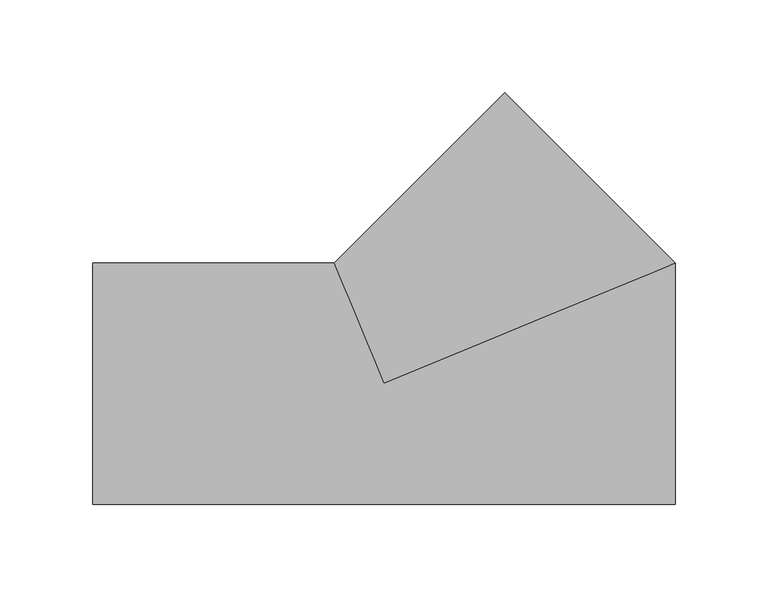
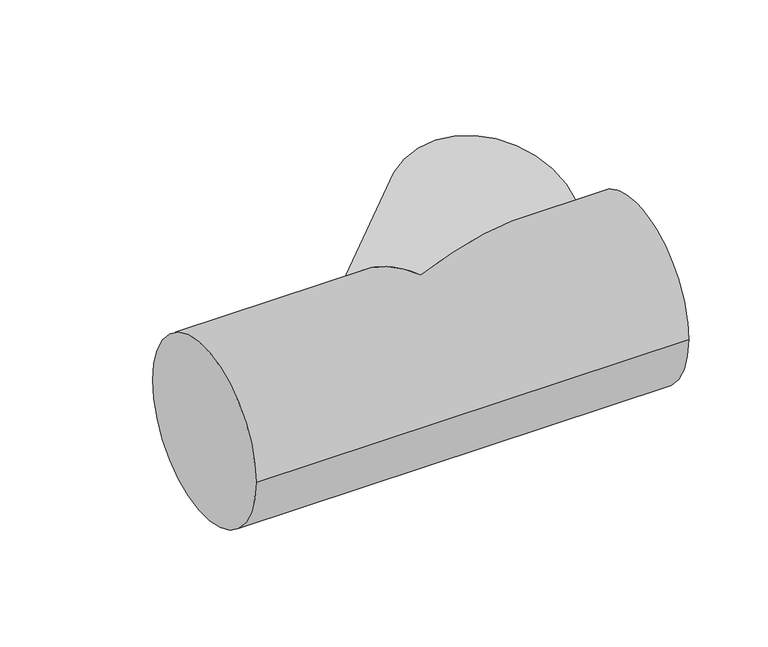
"""IFC4 building model written with IfcOpenShell, lengths in millimetres: pipe fitting geometry, M_Te - Genérica : Estándar."""

from ifc_helpers import new_model, si_unit, frame, origin, place, context, project, spatial, circle_curve, ellipse_curve, source, transform, mapped, element, save
from ifc_brep_helpers import plane_surface, cylinder_surface, advanced_brep


def pipe_fitting_252a5053(model_context):
    return source(origin(), model_context, "Body", "AdvancedBrep", [
        advanced_brep(
        [(-157.1443297, 65.0875, 0.0), (-157.1443297, -65.0875, 0.0), (157.1443297, 65.0875, 0.0), (157.1443297, -65.0875, 0.0), (0.0, 0.0, 65.0875), (-26.9585461, 65.0875, 0.0), (0.0, 0.0, -65.0875), (65.100517, 157.1389376, 0.0)],
        [
            (0, 1, circle_curve(frame((-157.1443297, 0.0, 0.0), z_axis=(-1.0, 0.0, 0.0), x_axis=(0.0, -1.0, 0.0)), 65.0875)),
            (1, 0, circle_curve(frame((-157.1443297, 0.0, 0.0), z_axis=(-1.0, 0.0, 0.0), x_axis=(0.0, -1.0, 0.0)), 65.0875)),
            (2, 3, circle_curve(frame((157.1443297, 0.0, 0.0), z_axis=(1.0, 0.0, 0.0), x_axis=(0.0, -1.0, 0.0)), 65.0875)),
            (3, 2, circle_curve(frame((157.1443297, 0.0, 0.0), z_axis=(1.0, 0.0, 0.0), x_axis=(0.0, -1.0, 0.0)), 65.0875)),
            (1, 3),
            (2, 4, ellipse_curve(frame((0.0, 0.0, 0.0), z_axis=(0.38266429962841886, -0.9238874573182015, 0.0), x_axis=(-0.9238874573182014, -0.38266429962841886, 0.0)), 170.0903378, 65.0875)),
            (4, 5, ellipse_curve(frame((0.0, 0.0, 0.0), z_axis=(-0.9238874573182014, -0.38266429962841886, 0.0), x_axis=(-0.38266429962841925, 0.9238874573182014, 0.0)), 70.449598, 65.0875)),
            (5, 0),
            (5, 6, ellipse_curve(frame((0.0, 0.0, 0.0), z_axis=(-0.9238874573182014, -0.38266429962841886, 0.0), x_axis=(-0.38266429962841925, 0.9238874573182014, 0.0)), 70.449598, 65.0875)),
            (6, 2, ellipse_curve(frame((0.0, 0.0, 0.0), z_axis=(0.38266429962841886, -0.9238874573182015, 0.0), x_axis=(-0.9238874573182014, -0.38266429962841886, 0.0)), 170.0903378, 65.0875)),
            (7, 2, circle_curve(frame((111.1224234, 111.1132188, 0.0), z_axis=(0.7071360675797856, 0.7070774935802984, 0.0), x_axis=(0.7070774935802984, -0.7071360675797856, 0.0)), 65.0875)),
            (2, 7, circle_curve(frame((111.1224234, 111.1132188, 0.0), z_axis=(0.7071360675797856, 0.7070774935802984, 0.0), x_axis=(0.7070774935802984, -0.7071360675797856, 0.0)), 65.0875)),
            (7, 5),
        ],
        [
            plane_surface(frame((-157.1443297, 0.0, 0.0), z_axis=(-1.0, 0.0, 0.0), x_axis=(0.0, 0.0, 1.0))),
            plane_surface(frame((157.1443297, 0.0, 0.0), z_axis=(1.0, 0.0, 0.0), x_axis=(0.0, 0.0, 1.0))),
            cylinder_surface(frame((-157.1443297, 0.0, 0.0), z_axis=(-1.0, 0.0, 0.0), x_axis=(0.0, -1.0, 0.0)), 65.0875),
            plane_surface(frame((111.1224234, 111.1132188, 0.0), z_axis=(0.7071360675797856, 0.7070774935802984, 0.0), x_axis=(0.0, 0.0, 1.0))),
            cylinder_surface(frame((0.0, 0.0, 0.0), z_axis=(-0.7071360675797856, -0.7070774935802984, 0.0), x_axis=(0.7070774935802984, -0.7071360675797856, 0.0)), 65.0875),
        ],
        [
            (0, [[1, 2]]),
            (1, [[3, 4]]),
            (2, [[5, -3, 6, 7, 8, -2]]),
            (2, [[-8, 9, 10, -4, -5, -1]]),
            (3, [[11, 12]]),
            (4, [[13, -7, -6, -11]]),
            (4, [[-10, -9, -13, -12]]),
        ],
    ),
    ])


if __name__ == "__main__":
    model = new_model("IFC4")
    model_context = context("Model", 3, world=origin())
    ifc_project = project(units=[si_unit("LENGTHUNIT", "METRE", prefix="MILLI")], contexts=[model_context])
    site = spatial("IfcSite", under=ifc_project)
    building = spatial("IfcBuilding", under=site)
    placement = place(None, origin())
    pipe_fitting_shape = pipe_fitting_252a5053(model_context)
    element("IfcPipeFitting", 1, ObjectType="M_Te - Genérica : Estándar", at=placement, inside=building, context=model_context, shape_type="MappedRepresentation", body=[
        mapped(pipe_fitting_shape, transform((0.0, 0.0, 0.0), x_axis=(1.0, 0.0, 0.0), y_axis=(0.0, 1.0, 0.0), z_axis=(0.0, 0.0, 1.0))),
    ])
    save(model, "model.ifc")
